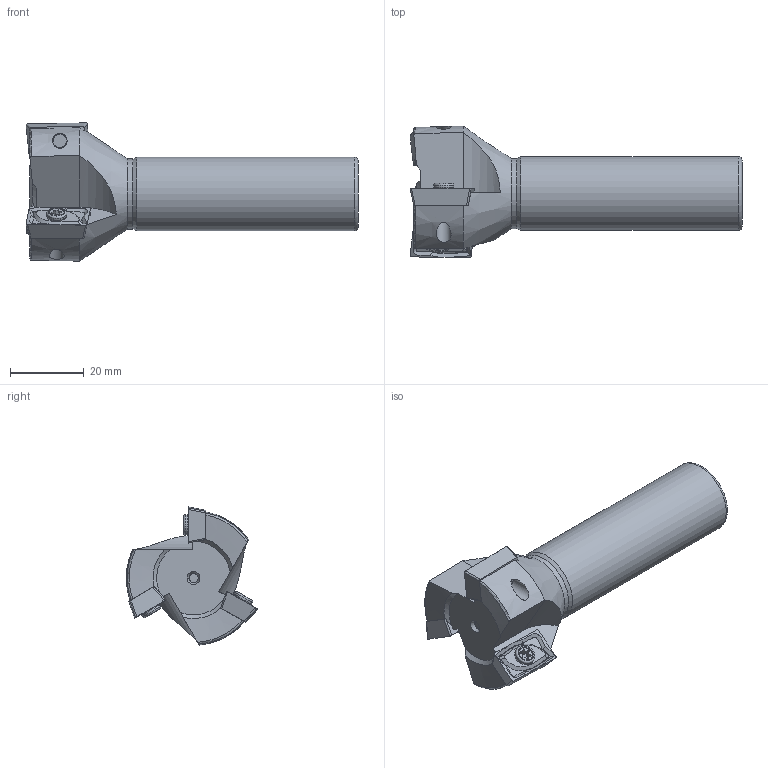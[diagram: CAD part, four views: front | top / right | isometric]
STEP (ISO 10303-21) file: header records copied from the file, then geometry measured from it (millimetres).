
FILE_DESCRIPTION(/* description */ (''),/* implementation_level */ '2;1');
FILE_NAME(/* name */ 'Z:\Проектный отдел\Арина\Фрезы\EAP400R-c20-38-90-3T\EAP400R-c20-38-90-3T.stp',/* time_stamp */ '2023-05-30T15:29:06+03:00',/* author */ ('user'),/* organization */ (''),/* preprocessor_version */ 'ST-DEVELOPER v18',/* originating_system */ 'Autodesk Inventor 2020',/* authorisation */ '');
FILE_SCHEMA (('AUTOMOTIVE_DESIGN { 1 0 10303 214 3 1 1 }'));
Length unit declared in the file: millimetre
Products named in the file (4): EAP400R-c20-38-90-3T; авампы; Напайка; болт
Assembly tree (7 placements, depth 2):
  EAP400R-c20-38-90-3T
    авампы
    Напайка  x3
    болт  x3
Bounding box: 90 x 35.65 x 37.47 mm (x, y, z)
Volume: 34790.6 mm3; surface area: 10433.3 mm2
Topology: 7 solids, 7 shells, 213 faces, 562 edges, 378 vertices
Faces by surface type: plane 98, bspline 48, cylinder 40, cone 20, torus 7
Full cylindrical faces by diameter (mm): 2.5 x1, 3 x1, 4 x9, 4.2 x3, 5.5 x6, 19 x1, 20 x1
Entity records: 4600 total; most frequent: CARTESIAN_POINT 1876, ORIENTED_EDGE 572, DIRECTION 498, EDGE_CURVE 286, AXIS2_PLACEMENT_3D 198, VERTEX_POINT 194, EDGE_LOOP 120, FACE_OUTER_BOUND 105
